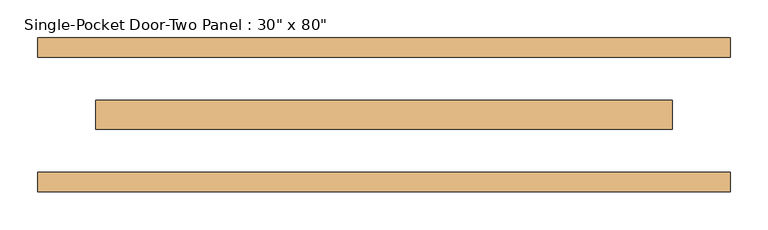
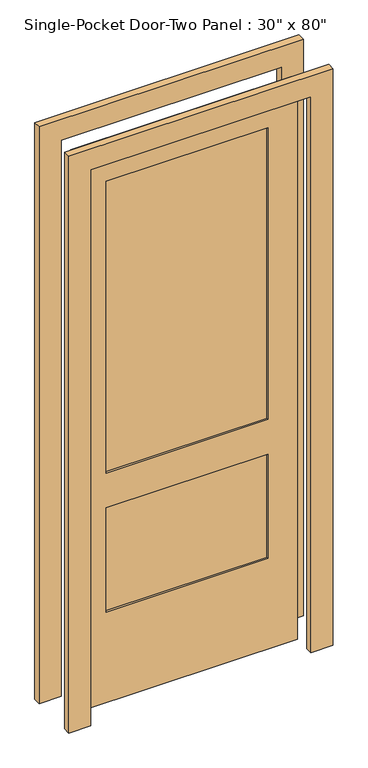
"""IFC4 building model written with IfcOpenShell, lengths in millimetres: door geometry."""

from ifc_helpers import new_model, si_unit, frame, origin, place, context, project, spatial, polyline, outline, extrude, source, transform, mapped, element, save


def door_91ac008a(model_context):
    return source(origin(), model_context, "Body", "SweptSolid", [
        extrude(outline(polyline([(-279.4, 12.7), (279.4, 12.7), (279.4, -12.7), (-279.4, -12.7), (-279.4, 12.7)])), frame((0.0, 0.0, 838.2), z_axis=(0.0, 0.0, 1.0), x_axis=(1.0, 0.0, 0.0)), (0.0, 0.0, 1.0), 1066.8),
        extrude(outline(polyline([(-279.4, 12.7), (279.4, 12.7), (279.4, -12.7), (-279.4, -12.7), (-279.4, 12.7)])), frame((0.0, 0.0, 330.2), z_axis=(0.0, 0.0, 1.0), x_axis=(1.0, 0.0, 0.0)), (0.0, 0.0, 1.0), 381.0),
        extrude(outline(polyline([(2032.0, -381.0), (0.0, -381.0), (0.0, 381.0), (2032.0, 381.0), (2032.0, -381.0)]), holes=[polyline([(711.2, -279.4), (711.2, 279.4), (330.2, 279.4), (330.2, -279.4), (711.2, -279.4)]), polyline([(1905.0, -279.4), (1905.0, 279.4), (838.2, 279.4), (838.2, -279.4), (1905.0, -279.4)])]), frame((0.0, -19.05, 0.0), z_axis=(0.0, 1.0, 0.0), x_axis=(0.0, 0.0, 1.0)), (0.0, 0.0, 1.0), 38.1),
        extrude(outline(polyline([(2032.0, -381.0), (2032.0, 381.0), (0.0, 381.0), (0.0, 457.2), (2108.2, 457.2), (2108.2, -457.2), (0.0, -457.2), (0.0, -381.0), (2032.0, -381.0)])), frame((0.0, -101.6, 0.0), z_axis=(0.0, 1.0, 0.0), x_axis=(0.0, 0.0, 1.0)), (0.0, 0.0, 1.0), 25.4),
        extrude(outline(polyline([(2032.0, -381.0), (2032.0, 381.0), (0.0, 381.0), (0.0, 457.2), (2108.2, 457.2), (2108.2, -457.2), (0.0, -457.2), (0.0, -381.0), (2032.0, -381.0)])), frame((0.0, 76.2, 0.0), z_axis=(0.0, 1.0, 0.0), x_axis=(0.0, 0.0, 1.0)), (0.0, 0.0, 1.0), 25.4),
    ])


if __name__ == "__main__":
    model = new_model("IFC4")
    model_context = context("Model", 3, world=origin())
    ifc_project = project(units=[si_unit("LENGTHUNIT", "METRE", prefix="MILLI")], contexts=[model_context])
    site = spatial("IfcSite", under=ifc_project)
    building = spatial("IfcBuilding", under=site)
    placement = place(None, origin())
    door_shape = door_91ac008a(model_context)
    element("IfcDoor", 1, ObjectType="Single-Pocket Door-Two Panel : 30\" x 80\"", at=placement, inside=building, context=model_context, shape_type="MappedRepresentation", body=[
        mapped(door_shape, transform((0.0, 0.0, 0.0), x_axis=(1.0, 0.0, 0.0), y_axis=(0.0, 1.0, 0.0), z_axis=(0.0, 0.0, 1.0))),
    ])
    save(model, "model.ifc")
